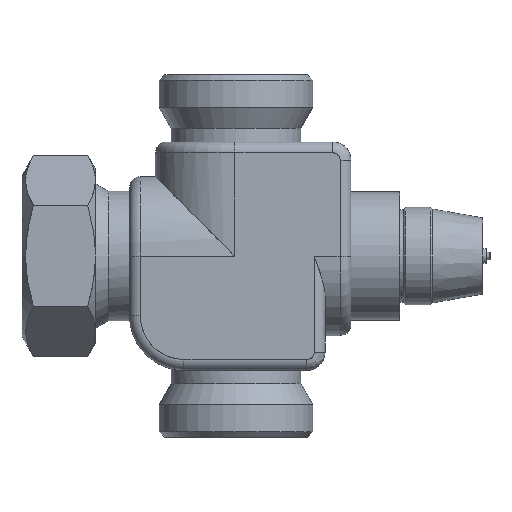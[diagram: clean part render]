
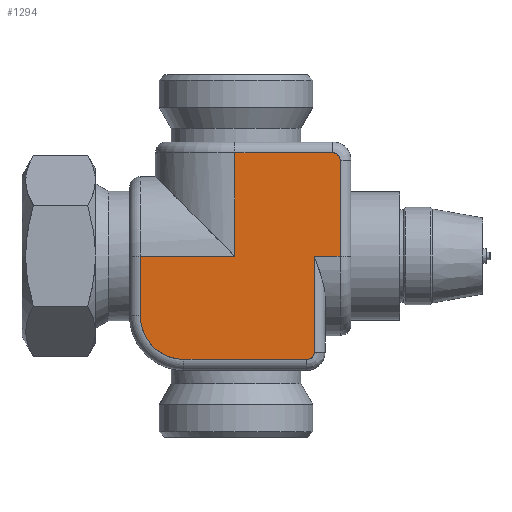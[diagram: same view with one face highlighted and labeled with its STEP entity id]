
A CAD part, left-side view. The second image highlights one B-rep face of the part: STEP entity #1294.
In plain terms, the highlighted planar face has unit normal (1, 0, 0).
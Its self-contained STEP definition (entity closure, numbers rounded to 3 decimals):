
#96=LINE('',#6289,#204);
#97=LINE('',#6292,#205);
#98=LINE('',#6294,#206);
#99=LINE('',#6303,#207);
#100=LINE('',#6316,#208);
#101=LINE('',#6318,#209);
#102=LINE('',#6320,#210);
#103=LINE('',#6322,#211);
#204=VECTOR('',#4052,1.);
#205=VECTOR('',#4053,1.);
#206=VECTOR('',#4054,1.);
#207=VECTOR('',#4055,1.);
#208=VECTOR('',#4056,1.);
#209=VECTOR('',#4057,1.);
#210=VECTOR('',#4058,1.);
#211=VECTOR('',#4059,1.);
#1294=ADVANCED_FACE('',(#1413),#1361,.T.);
#1361=PLANE('',#3614);
#1413=FACE_OUTER_BOUND('',#1521,.T.);
#1521=EDGE_LOOP('',(#1869,#1870,#1871,#1872,#1873,#1874,#1875,#1876,#1877,
#1878,#1879));
#1869=ORIENTED_EDGE('',*,*,#2851,.T.);
#1870=ORIENTED_EDGE('',*,*,#2852,.T.);
#1871=ORIENTED_EDGE('',*,*,#2853,.T.);
#1872=ORIENTED_EDGE('',*,*,#2854,.T.);
#1873=ORIENTED_EDGE('',*,*,#2855,.T.);
#1874=ORIENTED_EDGE('',*,*,#2856,.T.);
#1875=ORIENTED_EDGE('',*,*,#2857,.T.);
#1876=ORIENTED_EDGE('',*,*,#2858,.T.);
#1877=ORIENTED_EDGE('',*,*,#2859,.T.);
#1878=ORIENTED_EDGE('',*,*,#2860,.T.);
#1879=ORIENTED_EDGE('',*,*,#2861,.T.);
#2360=VERTEX_POINT('',#6290);
#2361=VERTEX_POINT('',#6291);
#2362=VERTEX_POINT('',#6293);
#2363=VERTEX_POINT('',#6295);
#2364=VERTEX_POINT('',#6302);
#2365=VERTEX_POINT('',#6304);
#2366=VERTEX_POINT('',#6315);
#2367=VERTEX_POINT('',#6317);
#2368=VERTEX_POINT('',#6319);
#2369=VERTEX_POINT('',#6321);
#2370=VERTEX_POINT('',#6323);
#2851=EDGE_CURVE('',#2360,#2361,#96,.T.);
#2852=EDGE_CURVE('',#2361,#2362,#97,.T.);
#2853=EDGE_CURVE('',#2362,#2363,#98,.T.);
#2854=EDGE_CURVE('',#2363,#2364,#3204,.T.);
#2855=EDGE_CURVE('',#2364,#2365,#99,.T.);
#2856=EDGE_CURVE('',#2365,#2366,#3205,.T.);
#2857=EDGE_CURVE('',#2366,#2367,#100,.T.);
#2858=EDGE_CURVE('',#2367,#2368,#101,.T.);
#2859=EDGE_CURVE('',#2368,#2369,#102,.T.);
#2860=EDGE_CURVE('',#2369,#2370,#103,.T.);
#2861=EDGE_CURVE('',#2370,#2360,#3206,.T.);
#3204=B_SPLINE_CURVE_WITH_KNOTS('',3,(#6296,#6297,#6298,#6299,#6300,#6301),
 .UNSPECIFIED.,.F.,.F.,(4,2,4),(0.,0.5,1.),.UNSPECIFIED.);
#3205=B_SPLINE_CURVE_WITH_KNOTS('',3,(#6305,#6306,#6307,#6308,#6309,#6310,
#6311,#6312,#6313,#6314),.UNSPECIFIED.,.F.,.F.,(4,2,2,2,4),(0.,0.25,0.5,
0.75,1.),.UNSPECIFIED.);
#3206=B_SPLINE_CURVE_WITH_KNOTS('',3,(#6324,#6325,#6326,#6327,#6328,#6329),
 .UNSPECIFIED.,.F.,.F.,(4,2,4),(0.,0.5,1.),.UNSPECIFIED.);
#3614=AXIS2_PLACEMENT_3D('',#6330,#4060,#4061);
#4052=DIRECTION('',(0.,0.,-1.));
#4053=DIRECTION('',(0.,1.,0.));
#4054=DIRECTION('',(0.,0.,-1.));
#4055=DIRECTION('',(0.,1.,0.));
#4056=DIRECTION('',(0.,0.,1.));
#4057=DIRECTION('',(0.,-1.,0.));
#4058=DIRECTION('',(0.,0.,1.));
#4059=DIRECTION('',(0.,-1.,0.));
#4060=DIRECTION('',(1.,0.,0.));
#4061=DIRECTION('',(0.,0.,1.));
#6289=CARTESIAN_POINT('',(-21.9,-28.681,49.96));
#6290=CARTESIAN_POINT('',(-21.9,-28.681,76.423));
#6291=CARTESIAN_POINT('',(-21.9,-28.681,49.96));
#6292=CARTESIAN_POINT('',(-21.9,-1.159,49.96));
#6293=CARTESIAN_POINT('',(-21.9,-21.533,49.96));
#6294=CARTESIAN_POINT('',(-21.9,-21.533,49.96));
#6295=CARTESIAN_POINT('',(-21.9,-21.533,23.497));
#6296=CARTESIAN_POINT('',(-21.9,-21.533,23.497));
#6297=CARTESIAN_POINT('',(-21.9,-21.532,23.018));
#6298=CARTESIAN_POINT('',(-21.9,-21.335,22.472));
#6299=CARTESIAN_POINT('',(-21.9,-20.558,21.694));
#6300=CARTESIAN_POINT('',(-21.9,-20.016,21.497));
#6301=CARTESIAN_POINT('',(-21.9,-19.533,21.497));
#6302=CARTESIAN_POINT('',(-21.9,-19.533,21.497));
#6303=CARTESIAN_POINT('',(-21.9,-1.159,21.497));
#6304=CARTESIAN_POINT('',(-21.9,14.363,21.497));
#6305=CARTESIAN_POINT('',(-21.9,14.363,21.497));
#6306=CARTESIAN_POINT('',(-21.9,15.786,21.497));
#6307=CARTESIAN_POINT('',(-21.9,17.298,21.753));
#6308=CARTESIAN_POINT('',(-21.9,20.262,22.926));
#6309=CARTESIAN_POINT('',(-21.9,21.678,23.843));
#6310=CARTESIAN_POINT('',(-21.9,24.017,26.181));
#6311=CARTESIAN_POINT('',(-21.9,24.939,27.613));
#6312=CARTESIAN_POINT('',(-21.9,26.101,30.547));
#6313=CARTESIAN_POINT('',(-21.9,26.363,32.055));
#6314=CARTESIAN_POINT('',(-21.9,26.363,33.497));
#6315=CARTESIAN_POINT('',(-21.9,26.363,33.497));
#6316=CARTESIAN_POINT('',(-21.9,26.363,49.96));
#6317=CARTESIAN_POINT('',(-21.9,26.363,49.96));
#6318=CARTESIAN_POINT('',(-21.9,-1.159,49.96));
#6319=CARTESIAN_POINT('',(-21.9,0.314,49.96));
#6320=CARTESIAN_POINT('',(-21.9,0.314,49.96));
#6321=CARTESIAN_POINT('',(-21.9,0.314,78.423));
#6322=CARTESIAN_POINT('',(-21.9,-1.159,78.423));
#6323=CARTESIAN_POINT('',(-21.9,-26.681,78.423));
#6324=CARTESIAN_POINT('',(-21.9,-26.681,78.423));
#6325=CARTESIAN_POINT('',(-21.9,-27.16,78.423));
#6326=CARTESIAN_POINT('',(-21.9,-27.707,78.226));
#6327=CARTESIAN_POINT('',(-21.9,-28.484,77.449));
#6328=CARTESIAN_POINT('',(-21.9,-28.681,76.907));
#6329=CARTESIAN_POINT('',(-21.9,-28.681,76.423));
#6330=CARTESIAN_POINT('',(-21.9,27.464,20.359));
